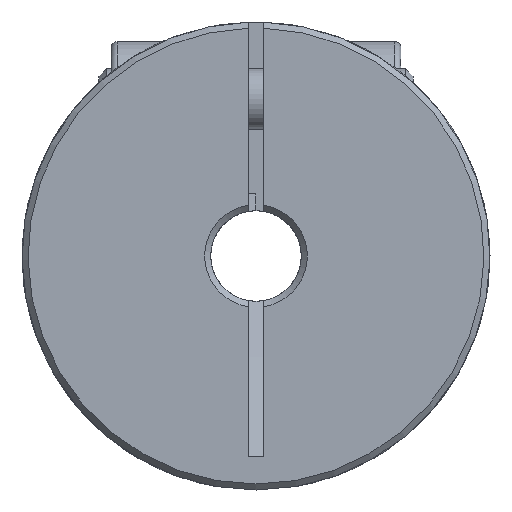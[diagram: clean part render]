
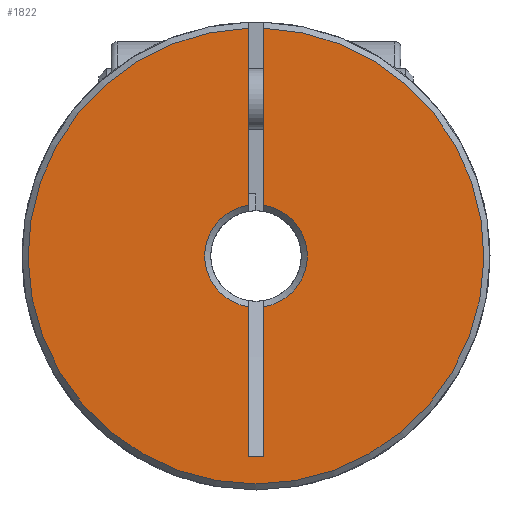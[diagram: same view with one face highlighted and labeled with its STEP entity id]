
A CAD part, left-side view. The second image highlights one B-rep face of the part: STEP entity #1822.
In plain terms, the highlighted planar face has unit normal (-1, 0, 0).
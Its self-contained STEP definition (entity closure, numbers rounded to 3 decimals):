
#129=LINE('',#2941,#209);
#132=LINE('',#2952,#212);
#135=LINE('',#2983,#215);
#140=LINE('',#3005,#220);
#141=LINE('',#3013,#221);
#209=VECTOR('',#2278,1000.);
#212=VECTOR('',#2283,1000.);
#215=VECTOR('',#2298,1000.);
#220=VECTOR('',#2307,1000.);
#221=VECTOR('',#2310,1000.);
#379=ORIENTED_EDGE('',*,*,#810,.T.);
#380=ORIENTED_EDGE('',*,*,#759,.F.);
#381=ORIENTED_EDGE('',*,*,#769,.F.);
#382=ORIENTED_EDGE('',*,*,#779,.T.);
#383=ORIENTED_EDGE('',*,*,#811,.T.);
#384=ORIENTED_EDGE('',*,*,#777,.T.);
#385=ORIENTED_EDGE('',*,*,#812,.F.);
#386=ORIENTED_EDGE('',*,*,#755,.F.);
#755=EDGE_CURVE('',#975,#976,#129,.T.);
#759=EDGE_CURVE('',#979,#980,#132,.T.);
#769=EDGE_CURVE('',#988,#979,#135,.T.);
#777=EDGE_CURVE('',#991,#995,#140,.T.);
#779=EDGE_CURVE('',#988,#996,#141,.T.);
#810=EDGE_CURVE('',#975,#980,#1147,.T.);
#811=EDGE_CURVE('',#996,#991,#1148,.T.);
#812=EDGE_CURVE('',#976,#995,#1149,.T.);
#975=VERTEX_POINT('',#2940);
#976=VERTEX_POINT('',#2942);
#979=VERTEX_POINT('',#2953);
#980=VERTEX_POINT('',#2954);
#988=VERTEX_POINT('',#2982);
#991=VERTEX_POINT('',#2992);
#995=VERTEX_POINT('',#3004);
#996=VERTEX_POINT('',#3011);
#1147=CIRCLE('',#2001,1.7);
#1148=CIRCLE('',#2002,1.7);
#1149=CIRCLE('',#2003,7.55);
#1277=EDGE_LOOP('',(#379,#380,#381,#382,#383,#384,#385,#386));
#1517=FACE_BOUND('',#1277,.T.);
#1740=PLANE('',#2000);
#1822=ADVANCED_FACE('',(#1517),#1740,.F.);
#2000=AXIS2_PLACEMENT_3D('',#3137,#2360,#2361);
#2001=AXIS2_PLACEMENT_3D('',#3138,#2362,#2363);
#2002=AXIS2_PLACEMENT_3D('',#3139,#2364,#2365);
#2003=AXIS2_PLACEMENT_3D('',#3140,#2366,#2367);
#2278=DIRECTION('',(0.,0.,1.));
#2283=DIRECTION('',(0.,0.,1.));
#2298=DIRECTION('',(0.,-1.,0.));
#2307=DIRECTION('',(0.,0.,1.));
#2310=DIRECTION('',(0.,0.,1.));
#2360=DIRECTION('',(1.,0.,0.));
#2361=DIRECTION('',(0.,0.,-1.));
#2362=DIRECTION('',(1.,0.,0.));
#2363=DIRECTION('',(0.,0.,-1.));
#2364=DIRECTION('',(1.,0.,0.));
#2365=DIRECTION('',(0.,0.,-1.));
#2366=DIRECTION('',(1.,0.,0.));
#2367=DIRECTION('',(0.,0.,-1.));
#2940=CARTESIAN_POINT('',(0.,-0.25,1.682));
#2941=CARTESIAN_POINT('',(0.,-0.25,-6.624));
#2942=CARTESIAN_POINT('',(0.,-0.25,7.546));
#2952=CARTESIAN_POINT('',(0.,-0.25,-6.624));
#2953=CARTESIAN_POINT('',(0.,-0.25,-6.624));
#2954=CARTESIAN_POINT('',(0.,-0.25,-1.682));
#2982=CARTESIAN_POINT('',(0.,0.25,-6.624));
#2983=CARTESIAN_POINT('',(0.,0.25,-6.624));
#2992=CARTESIAN_POINT('',(0.,0.25,1.682));
#3004=CARTESIAN_POINT('',(0.,0.25,7.546));
#3005=CARTESIAN_POINT('',(0.,0.25,-6.624));
#3011=CARTESIAN_POINT('',(0.,0.25,-1.682));
#3013=CARTESIAN_POINT('',(0.,0.25,-6.624));
#3137=CARTESIAN_POINT('',(0.,0.,0.));
#3138=CARTESIAN_POINT('',(0.,0.,0.));
#3139=CARTESIAN_POINT('',(0.,0.,0.));
#3140=CARTESIAN_POINT('',(0.,0.,0.));
